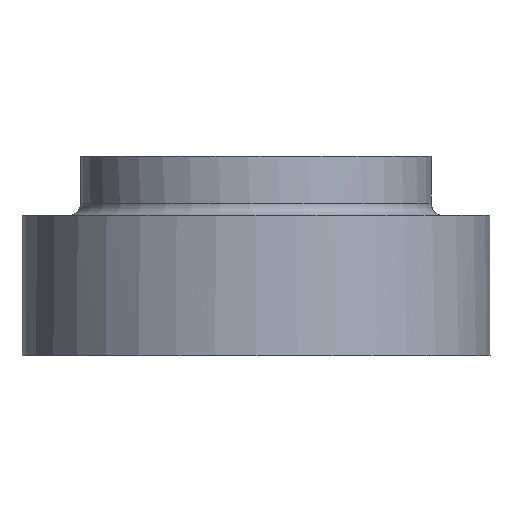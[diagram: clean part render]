
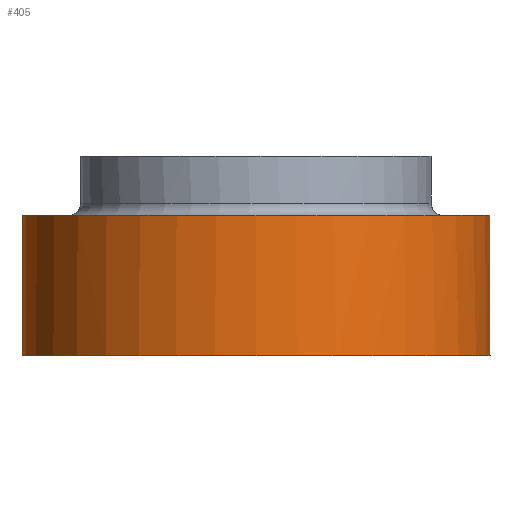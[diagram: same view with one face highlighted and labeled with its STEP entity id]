
A CAD part, left-side view. The second image highlights one B-rep face of the part: STEP entity #405.
In plain terms, the highlighted cylindrical face has radius 20 mm (diameter 40 mm), a full revolution.
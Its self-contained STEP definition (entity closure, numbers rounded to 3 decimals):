
#29=CYLINDRICAL_SURFACE('',#451,20.);
#45=B_SPLINE_CURVE_WITH_KNOTS('',3,(#743,#744,#745,#746),.UNSPECIFIED.,
 .F.,.F.,(4,4),(0.,0.002),.UNSPECIFIED.);
#97=ORIENTED_EDGE('',*,*,#126,.T.);
#98=ORIENTED_EDGE('',*,*,#108,.T.);
#99=ORIENTED_EDGE('',*,*,#122,.F.);
#108=EDGE_CURVE('',#131,#132,#153,.T.);
#122=EDGE_CURVE('',#146,#146,#167,.T.);
#126=EDGE_CURVE('',#132,#131,#45,.T.);
#131=VERTEX_POINT('',#677);
#132=VERTEX_POINT('',#679);
#146=VERTEX_POINT('',#720);
#153=CIRCLE('',#419,20.);
#167=CIRCLE('',#445,20.);
#204=EDGE_LOOP('',(#97,#98));
#205=EDGE_LOOP('',(#99));
#241=FACE_BOUND('',#204,.T.);
#242=FACE_BOUND('',#205,.T.);
#405=ADVANCED_FACE('',(#241,#242),#29,.T.);
#419=AXIS2_PLACEMENT_3D('',#680,#470,#471);
#445=AXIS2_PLACEMENT_3D('',#719,#522,#523);
#451=AXIS2_PLACEMENT_3D('',#748,#534,#535);
#470=DIRECTION('',(0.,0.,-1.));
#471=DIRECTION('',(-1.,0.,0.));
#522=DIRECTION('',(0.,0.,-1.));
#523=DIRECTION('',(-1.,0.,0.));
#534=DIRECTION('',(0.,0.,-1.));
#535=DIRECTION('',(-1.,0.,0.));
#677=CARTESIAN_POINT('',(-0.727,-19.987,-5.031));
#679=CARTESIAN_POINT('',(0.727,-19.987,-5.031));
#680=CARTESIAN_POINT('',(0.,0.,-5.031));
#719=CARTESIAN_POINT('',(0.,0.,-17.031));
#720=CARTESIAN_POINT('',(-20.,0.,-17.031));
#743=CARTESIAN_POINT('',(0.727,-19.987,-5.031));
#744=CARTESIAN_POINT('',(0.291,-20.003,-5.308));
#745=CARTESIAN_POINT('',(-0.291,-20.003,-5.308));
#746=CARTESIAN_POINT('',(-0.727,-19.987,-5.031));
#748=CARTESIAN_POINT('',(0.,0.,-57.));
